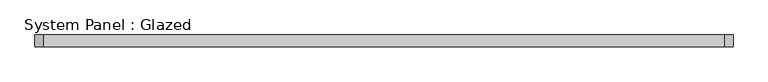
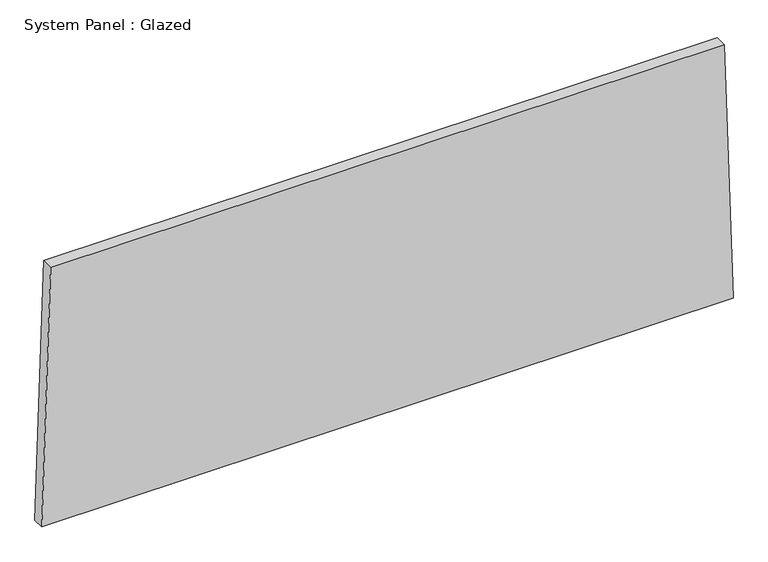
"""IFC4 building model written with IfcOpenShell, lengths in millimetres: plate geometry, System Panel : Glazed."""

import ifcopenshell
import ifcopenshell.guid

model = None  # the IFC model being written
_history = None  # IfcOwnerHistory: only IFC2X3 demands one
_inside = {}  # id of a spatial element -> (the spatial element, [elements in it])
_under = {}  # id of a project, library or spatial element -> (it, [spatial elements below it])
_declared = {}  # id of a project -> (the project, [libraries it declares])
_typed = {}  # id of a type object -> (the type object, [elements of that type])
_made_of = {}  # id of a material, layer set ... -> (it, [elements and type objects made of it])


def new_model(schema):
    """Start an empty IFC model of exactly this schema.

    Asked for "IFC4X3", IfcOpenShell would pick the latest addendum, in which some entities
    have other attributes; the version numbers below select the first issue.
    IFC2X3 requires an IfcOwnerHistory on every rooted entity: one is made here for all.
    """
    global model, _history
    if schema == "IFC4X3":
        model = ifcopenshell.file(schema_version=(4, 3, 0, 0))
    else:
        model = ifcopenshell.file(schema=schema)
    _inside.clear()
    _under.clear()
    _declared.clear()
    _typed.clear()
    _made_of.clear()
    _history = None
    if model.schema == "IFC2X3":
        org = make("IfcOrganization", Name="unknown")
        user = make(
            "IfcPersonAndOrganization",
            ThePerson=make("IfcPerson", FamilyName="unknown"),
            TheOrganization=org,
        )
        app = make(
            "IfcApplication",
            ApplicationDeveloper=org,
            Version="unknown",
            ApplicationFullName="unknown",
            ApplicationIdentifier="unknown",
        )
        _history = make(
            "IfcOwnerHistory",
            OwningUser=user,
            OwningApplication=app,
            ChangeAction="ADDED",
            CreationDate=0,
        )
    return model


def make(cls, **values):
    """One entity of the class cls with the attributes given. An attribute that is None is left unset."""
    return model.create_entity(
        cls, **{name: value for name, value in values.items() if value is not None}
    )


def rooted(cls, **values):
    """An entity with a GlobalId (a new one), such as an element, a storey or a relation."""
    return make(cls, GlobalId=ifcopenshell.guid.new(), OwnerHistory=_history, **values)


def si_unit(unit_type, name, prefix=None):
    """IfcSIUnit, for example si_unit("LENGTHUNIT", "METRE", prefix="MILLI")."""
    return make("IfcSIUnit", UnitType=unit_type, Prefix=prefix, Name=name)


def assignment(units):
    """IfcUnitAssignment: the units of a project."""
    return None if units is None else make("IfcUnitAssignment", Units=units)


def point(xyz):
    """IfcCartesianPoint."""
    return None if xyz is None else make("IfcCartesianPoint", Coordinates=xyz)


def direction(xyz):
    """IfcDirection."""
    return None if xyz is None else make("IfcDirection", DirectionRatios=xyz)


def frame(location, z_axis=None, x_axis=None):
    """IfcAxis2Placement3D, a coordinate frame: its origin and axes. An axis left out is left unset."""
    return make(
        "IfcAxis2Placement3D",
        Location=point(location),
        Axis=direction(z_axis),
        RefDirection=direction(x_axis),
    )


def origin():
    """The frame at (0, 0, 0) with its axes left unset."""
    return frame((0.0, 0.0, 0.0))


def place(relative_to, where):
    """IfcLocalPlacement: puts the frame where relative to a parent placement (None: the world)."""
    return make(
        "IfcLocalPlacement", PlacementRelTo=relative_to, RelativePlacement=where
    )


def context(
    kind, dimensions, precision=None, world=None, true_north=None, identifier=None
):
    """IfcGeometricRepresentationContext, for example the 3D "Model" context."""
    return make(
        "IfcGeometricRepresentationContext",
        ContextIdentifier=identifier,
        ContextType=kind,
        CoordinateSpaceDimension=dimensions,
        Precision=precision,
        WorldCoordinateSystem=world,
        TrueNorth=true_north,
    )


def project(units=None, contexts=None):
    """IfcProject with its units and contexts."""
    return rooted(
        "IfcProject",
        Name="project",
        RepresentationContexts=contexts,
        UnitsInContext=assignment(units),
    )


def spatial(cls, under=None, at=None, **own):
    """A site, building, storey or space (cls), placed at a placement, below another one or the project."""
    s = rooted(cls, ObjectPlacement=at, **own)
    if under is not None:
        _under.setdefault(under.id(), (under, []))[1].append(s)
    return s


def polyline(points):
    """IfcPolyline through the points."""
    return make("IfcPolyline", Points=[point(p) for p in points])


def outline(outer, holes=None, kind="AREA"):
    """IfcArbitraryClosedProfileDef: a profile drawn as a closed curve; with holes, ...WithVoids."""
    if holes is None:
        return make("IfcArbitraryClosedProfileDef", ProfileType=kind, OuterCurve=outer)
    return make(
        "IfcArbitraryProfileDefWithVoids",
        ProfileType=kind,
        OuterCurve=outer,
        InnerCurves=holes,
    )


def extrude(swept, where, along, depth):
    """IfcExtrudedAreaSolid: the profile swept, set in the frame where, extruded along a direction by depth."""
    return make(
        "IfcExtrudedAreaSolid",
        SweptArea=swept,
        Position=where,
        ExtrudedDirection=direction(along),
        Depth=depth,
    )


def shape(context_of_items, identifier, shape_type, items):
    """IfcShapeRepresentation: the items that make up one representation, for example the "Body"."""
    return make(
        "IfcShapeRepresentation",
        ContextOfItems=context_of_items,
        RepresentationIdentifier=identifier,
        RepresentationType=shape_type,
        Items=items,
    )


def source(mapping_origin, context_of_items, identifier, shape_type, items):
    """IfcRepresentationMap: a shape defined once, which mapped items show again and again."""
    return make(
        "IfcRepresentationMap",
        MappingOrigin=mapping_origin,
        MappedRepresentation=shape(context_of_items, identifier, shape_type, items),
    )


def transform(
    local_origin,
    x_axis=None,
    y_axis=None,
    z_axis=None,
    scale=None,
    scale2=None,
    scale3=None,
    uniform=True,
):
    """IfcCartesianTransformationOperator3D, or its non-uniform kind. x_axis, y_axis, z_axis: its Axis1, 2, 3."""
    if uniform:
        return make(
            "IfcCartesianTransformationOperator3D",
            Axis1=direction(x_axis),
            Axis2=direction(y_axis),
            LocalOrigin=point(local_origin),
            Scale=scale,
            Axis3=direction(z_axis),
        )
    return make(
        "IfcCartesianTransformationOperator3DnonUniform",
        Axis1=direction(x_axis),
        Axis2=direction(y_axis),
        LocalOrigin=point(local_origin),
        Scale=scale,
        Axis3=direction(z_axis),
        Scale2=scale2,
        Scale3=scale3,
    )


def mapped(mapping_source, mapping_target):
    """IfcMappedItem: shows the shape of a source again, moved by a transform."""
    return make(
        "IfcMappedItem", MappingSource=mapping_source, MappingTarget=mapping_target
    )


def made_of(thing, what):
    """Note that an element or type object is made of a material, layer set ...; save() writes the relation."""
    if what is not None:
        _made_of.setdefault(what.id(), (what, []))[1].append(thing)
    return thing


def element(
    cls,
    number,
    at=None,
    inside=None,
    cuts=None,
    type_object=None,
    material=None,
    context=None,
    identifier="Body",
    shape_type=None,
    held_by="IfcProductDefinitionShape",
    body=None,
    shapes=None,
    **own,
):
    """One element of the class cls, such as IfcWall. Its Tag is "e" and its number.

    at: its placement. inside: the storey or other place that contains it. cuts: it is an
    opening in that element (IfcRelVoidsElement). A single representation is given by context,
    identifier, shape_type and body (its items); several are given by shapes. held_by: the class
    of the entity that holds the representations. save() writes the other relations.
    """
    e = rooted(cls, Tag="e%d" % number, ObjectPlacement=at, **own)
    if body is not None:
        shapes = [shape(context, identifier, shape_type, body)]
    if shapes is not None:
        e.Representation = make(held_by, Representations=shapes)
    if inside is not None:
        _inside.setdefault(inside.id(), (inside, []))[1].append(e)
    if cuts is not None:
        rooted(
            "IfcRelVoidsElement", RelatingBuildingElement=cuts, RelatedOpeningElement=e
        )
    if type_object is not None:
        _typed.setdefault(type_object.id(), (type_object, []))[1].append(e)
    return made_of(e, material)


def aggregate(whole, parts):
    """IfcRelAggregates: a whole, such as a stair, and the parts it consists of."""
    return rooted("IfcRelAggregates", RelatingObject=whole, RelatedObjects=parts)


def save(model, path):
    """Write the relations noted so far, then the file.

    IfcRelAggregates (storeys below a building ...), IfcRelContainedInSpatialStructure (elements
    in a storey), IfcRelDefinesByType, IfcRelAssociatesMaterial and IfcRelDeclares: one each for
    every whole, place, type object, material and project.
    """
    for whole, parts in _under.values():
        aggregate(whole, parts)
    for where, things in _inside.values():
        rooted(
            "IfcRelContainedInSpatialStructure",
            RelatedElements=things,
            RelatingStructure=where,
        )
    for kind, things in _typed.values():
        rooted("IfcRelDefinesByType", RelatedObjects=things, RelatingType=kind)
    for what, things in _made_of.values():
        rooted("IfcRelAssociatesMaterial", RelatedObjects=things, RelatingMaterial=what)
    for by, libraries in _declared.values():
        rooted("IfcRelDeclares", RelatingContext=by, RelatedDefinitions=libraries)
    model.write(path)


def system_panel_glazed_c7397732(model_context):
    return source(origin(), model_context, "Body", "SweptSolid", [
        extrude(outline(polyline([(0.0, -743.5527374), (0.0, 743.5527374), (583.8784387, 724.5804917), (583.8784387, -724.5804917), (0.0, -743.5527374)])), frame((0.0, -44.45, 0.0), z_axis=(0.0, 1.0, 0.0), x_axis=(0.0, 0.0, 1.0)), (0.0, 0.0, 1.0), 25.4),
    ])


if __name__ == "__main__":
    model = new_model("IFC4")
    model_context = context("Model", 3, world=origin())
    ifc_project = project(units=[si_unit("LENGTHUNIT", "METRE", prefix="MILLI")], contexts=[model_context])
    site = spatial("IfcSite", under=ifc_project)
    building = spatial("IfcBuilding", under=site)
    placement = place(None, origin())
    system_panel_glazed_shape = system_panel_glazed_c7397732(model_context)
    element("IfcPlate", 1, ObjectType="System Panel : Glazed", at=placement, inside=building, context=model_context, shape_type="MappedRepresentation", body=[
        mapped(system_panel_glazed_shape, transform((0.0, 0.0, 0.0), x_axis=(1.0, 0.0, 0.0), y_axis=(0.0, 1.0, 0.0), z_axis=(0.0, 0.0, 1.0))),
    ])
    save(model, "model.ifc")
